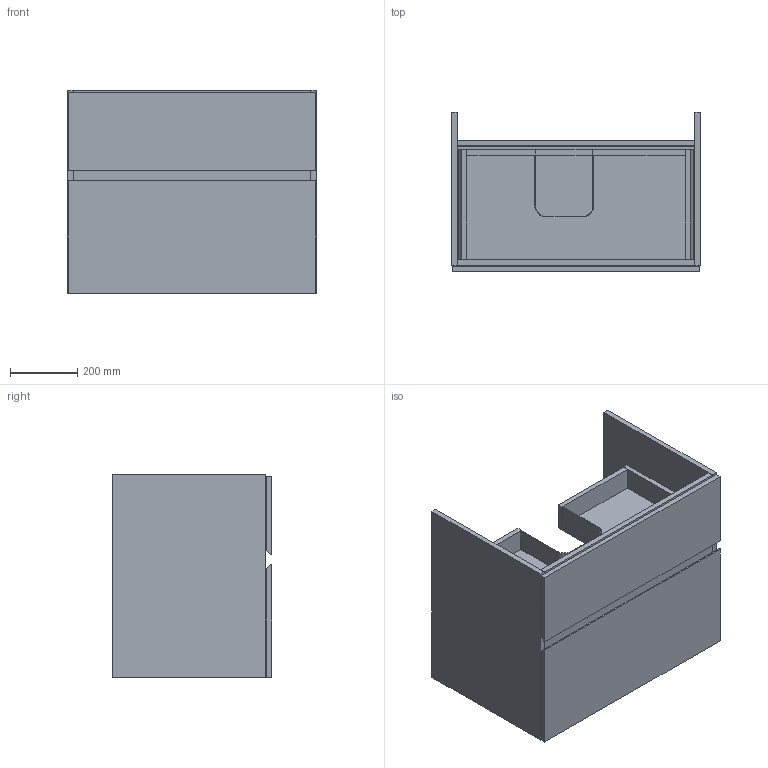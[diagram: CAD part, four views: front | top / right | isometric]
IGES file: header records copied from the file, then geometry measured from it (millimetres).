
Global section: file name: 510020; native system: Autodesk Inventor 2023; preprocessor: unknown; author: JANAN; date: 20241002.131605; units: millimetre
Bounding box: 740 x 474.5 x 605 mm (x, y, z)
Volume: 35306111.5 mm3; surface area: 4734453.4 mm2
Topology: 9 solids, 9 shells, 122 faces, 306 edges, 200 vertices
Faces by surface type: bspline 122
